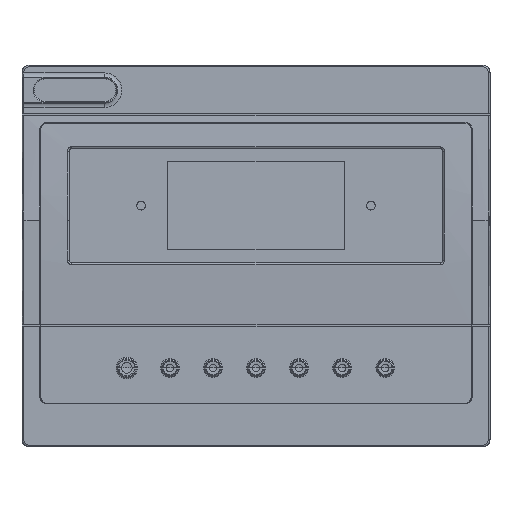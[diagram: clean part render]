
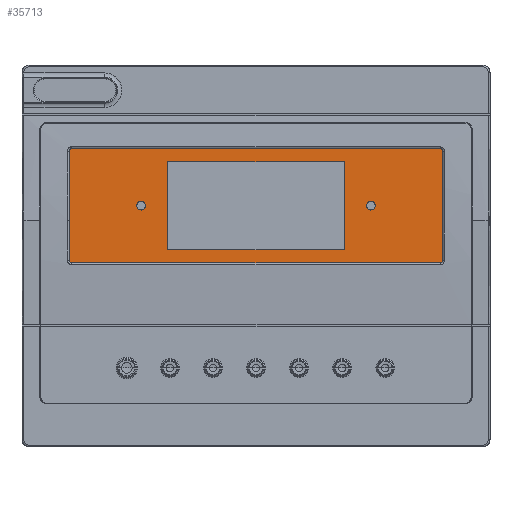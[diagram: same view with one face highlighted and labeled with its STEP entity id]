
A CAD part, top view. The second image highlights one B-rep face of the part: STEP entity #35713.
In plain terms, the highlighted planar face has unit normal (0, 0, 1).
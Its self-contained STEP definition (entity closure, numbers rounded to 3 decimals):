
#2018 = ORIENTED_EDGE ( 'NONE', *, *, #52061, .T. ) ;
#3302 = DIRECTION ( 'NONE',  ( 0., -1., 0. ) ) ;
#3781 = DIRECTION ( 'NONE',  ( 0., 0., 1. ) ) ;
#4356 = VERTEX_POINT ( 'NONE', #105289 ) ;
#4722 = VERTEX_POINT ( 'NONE', #91556 ) ;
#5924 = EDGE_CURVE ( 'NONE', #89878, #76999, #34259, .T. ) ;
#6278 = VERTEX_POINT ( 'NONE', #27375 ) ;
#7605 = DIRECTION ( 'NONE',  ( 0., 0., 1. ) ) ;
#10985 = DIRECTION ( 'NONE',  ( 0., -1., 0. ) ) ;
#11835 = LINE ( 'NONE', #137380, #97680 ) ;
#12155 = DIRECTION ( 'NONE',  ( 0., 1., 0. ) ) ;
#13151 = CARTESIAN_POINT ( 'NONE',  ( -41.5, 17.5, 7.5 ) ) ;
#15374 = ORIENTED_EDGE ( 'NONE', *, *, #15812, .T. ) ;
#15812 = EDGE_CURVE ( 'NONE', #29720, #133928, #28827, .T. ) ;
#18624 = VECTOR ( 'NONE', #40805, 1000. ) ;
#21100 = ORIENTED_EDGE ( 'NONE', *, *, #115583, .T. ) ;
#21170 = DIRECTION ( 'NONE',  ( 0., 0., 1. ) ) ;
#22137 = LINE ( 'NONE', #29481, #18624 ) ;
#23445 = CARTESIAN_POINT ( 'NONE',  ( -40., 17.5, 7.5 ) ) ;
#23997 = VERTEX_POINT ( 'NONE', #29060 ) ;
#24203 = DIRECTION ( 'NONE',  ( 0., 0., -1. ) ) ;
#24708 = CARTESIAN_POINT ( 'NONE',  ( -64.15, 36.5, 7.5 ) ) ;
#26003 = ORIENTED_EDGE ( 'NONE', *, *, #75775, .T. ) ;
#26130 = CARTESIAN_POINT ( 'NONE',  ( -30.69, 36.5, 7.5 ) ) ;
#27375 = CARTESIAN_POINT ( 'NONE',  ( 38.5, 17.5, 7.5 ) ) ;
#28827 = LINE ( 'NONE', #88868, #114635 ) ;
#29060 = CARTESIAN_POINT ( 'NONE',  ( -30.69, 32.89, 7.5 ) ) ;
#29481 = CARTESIAN_POINT ( 'NONE',  ( 64.15, 37.4, 7.5 ) ) ;
#29720 = VERTEX_POINT ( 'NONE', #89068 ) ;
#30289 = CARTESIAN_POINT ( 'NONE',  ( -64.15, -2.4, 7.5 ) ) ;
#31376 = AXIS2_PLACEMENT_3D ( 'NONE', #88237, #21170, #99470 ) ;
#31669 = AXIS2_PLACEMENT_3D ( 'NONE', #70964, #3781, #82135 ) ;
#34259 = CIRCLE ( 'NONE', #108921, 1.5 ) ;
#34457 = VERTEX_POINT ( 'NONE', #65762 ) ;
#34719 = DIRECTION ( 'NONE',  ( 1., 0., 0. ) ) ;
#35713 = ADVANCED_FACE ( 'NONE', ( #114804, #118313, #85103, #88610 ), #47275, .T. ) ;
#36137 = DIRECTION ( 'NONE',  ( 0., 0., -1. ) ) ;
#36779 = EDGE_LOOP ( 'NONE', ( #140468, #99304 ) ) ;
#37420 = ORIENTED_EDGE ( 'NONE', *, *, #60219, .T. ) ;
#37762 = LINE ( 'NONE', #114065, #93767 ) ;
#40805 = DIRECTION ( 'NONE',  ( -1., 0., 0. ) ) ;
#43071 = AXIS2_PLACEMENT_3D ( 'NONE', #24708, #103003, #69850 ) ;
#45853 = CARTESIAN_POINT ( 'NONE',  ( -64.15, 37.4, 7.5 ) ) ;
#46810 = ORIENTED_EDGE ( 'NONE', *, *, #141261, .T. ) ;
#47275 = PLANE ( 'NONE',  #43071 ) ;
#48213 = ORIENTED_EDGE ( 'NONE', *, *, #99893, .T. ) ;
#48397 = CARTESIAN_POINT ( 'NONE',  ( -65.05, -1.5, 7.5 ) ) ;
#48973 = CARTESIAN_POINT ( 'NONE',  ( 30.69, 2.11, 7.5 ) ) ;
#50394 = AXIS2_PLACEMENT_3D ( 'NONE', #91252, #24203, #102476 ) ;
#52061 = EDGE_CURVE ( 'NONE', #54663, #6278, #119962, .T. ) ;
#54663 = VERTEX_POINT ( 'NONE', #111423 ) ;
#55076 = VERTEX_POINT ( 'NONE', #131873 ) ;
#57904 = CARTESIAN_POINT ( 'NONE',  ( 64.15, -1.5, 7.5 ) ) ;
#58941 = CARTESIAN_POINT ( 'NONE',  ( -64.15, -2.4, 7.5 ) ) ;
#59622 = ORIENTED_EDGE ( 'NONE', *, *, #127293, .T. ) ;
#60219 = EDGE_CURVE ( 'NONE', #68291, #131589, #98182, .T. ) ;
#64183 = EDGE_CURVE ( 'NONE', #131857, #4356, #95124, .T. ) ;
#65257 = CARTESIAN_POINT ( 'NONE',  ( -40., 17.5, 7.5 ) ) ;
#65762 = CARTESIAN_POINT ( 'NONE',  ( 64.15, -2.4, 7.5 ) ) ;
#66795 = ORIENTED_EDGE ( 'NONE', *, *, #124419, .T. ) ;
#67053 = ORIENTED_EDGE ( 'NONE', *, *, #97082, .T. ) ;
#68279 = VERTEX_POINT ( 'NONE', #70494 ) ;
#68291 = VERTEX_POINT ( 'NONE', #48397 ) ;
#69236 = DIRECTION ( 'NONE',  ( 1., 0., 0. ) ) ;
#69850 = DIRECTION ( 'NONE',  ( 1., 0., 0. ) ) ;
#70487 = VECTOR ( 'NONE', #138155, 1000. ) ;
#70494 = CARTESIAN_POINT ( 'NONE',  ( 64.15, 37.4, 7.5 ) ) ;
#70570 = CIRCLE ( 'NONE', #31669, 0.9 ) ;
#70964 = CARTESIAN_POINT ( 'NONE',  ( 64.15, 36.5, 7.5 ) ) ;
#71476 = CIRCLE ( 'NONE', #50394, 1.5 ) ;
#74725 = CARTESIAN_POINT ( 'NONE',  ( -64.15, 36.5, 7.5 ) ) ;
#75775 = EDGE_CURVE ( 'NONE', #34457, #131857, #119874, .T. ) ;
#76518 = DIRECTION ( 'NONE',  ( 1., 0., 0. ) ) ;
#76600 = DIRECTION ( 'NONE',  ( 1., 0., 0. ) ) ;
#76740 = CIRCLE ( 'NONE', #94822, 0.9 ) ;
#76999 = VERTEX_POINT ( 'NONE', #103015 ) ;
#78113 = ORIENTED_EDGE ( 'NONE', *, *, #64183, .T. ) ;
#79254 = CARTESIAN_POINT ( 'NONE',  ( 65.05, -1.5, 7.5 ) ) ;
#79725 = LINE ( 'NONE', #30289, #83232 ) ;
#82135 = DIRECTION ( 'NONE',  ( 1., 0., 0. ) ) ;
#82892 = EDGE_CURVE ( 'NONE', #88775, #55076, #76740, .T. ) ;
#83014 = ORIENTED_EDGE ( 'NONE', *, *, #123599, .T. ) ;
#83232 = VECTOR ( 'NONE', #108599, 1000. ) ;
#84592 = EDGE_LOOP ( 'NONE', ( #88349, #83014, #37420, #123818, #26003, #78113, #59622, #66795 ) ) ;
#85103 = FACE_BOUND ( 'NONE', #36779, .T. ) ;
#85974 = DIRECTION ( 'NONE',  ( 1., 0., 0. ) ) ;
#86308 = CARTESIAN_POINT ( 'NONE',  ( 65.05, -1.5, 7.5 ) ) ;
#88237 = CARTESIAN_POINT ( 'NONE',  ( -64.15, -1.5, 7.5 ) ) ;
#88349 = ORIENTED_EDGE ( 'NONE', *, *, #82892, .T. ) ;
#88610 = FACE_BOUND ( 'NONE', #99399, .T. ) ;
#88775 = VERTEX_POINT ( 'NONE', #45853 ) ;
#88868 = CARTESIAN_POINT ( 'NONE',  ( 30.69, 36.5, 7.5 ) ) ;
#89068 = CARTESIAN_POINT ( 'NONE',  ( 30.69, 32.89, 7.5 ) ) ;
#89816 = EDGE_CURVE ( 'NONE', #76999, #89878, #92412, .T. ) ;
#89878 = VERTEX_POINT ( 'NONE', #13151 ) ;
#91113 = DIRECTION ( 'NONE',  ( -1., 0., 0. ) ) ;
#91252 = CARTESIAN_POINT ( 'NONE',  ( 40., 17.5, 7.5 ) ) ;
#91556 = CARTESIAN_POINT ( 'NONE',  ( -30.69, 2.11, 7.5 ) ) ;
#92412 = CIRCLE ( 'NONE', #95162, 1.5 ) ;
#92673 = LINE ( 'NONE', #132300, #145070 ) ;
#93767 = VECTOR ( 'NONE', #91113, 1000. ) ;
#94822 = AXIS2_PLACEMENT_3D ( 'NONE', #74725, #7605, #85974 ) ;
#95124 = LINE ( 'NONE', #79254, #124850 ) ;
#95162 = AXIS2_PLACEMENT_3D ( 'NONE', #23445, #101727, #34719 ) ;
#97082 = EDGE_CURVE ( 'NONE', #133928, #4722, #37762, .T. ) ;
#97680 = VECTOR ( 'NONE', #3302, 1000. ) ;
#98182 = CIRCLE ( 'NONE', #31376, 0.9 ) ;
#99304 = ORIENTED_EDGE ( 'NONE', *, *, #5924, .T. ) ;
#99399 = EDGE_LOOP ( 'NONE', ( #2018, #48213 ) ) ;
#99470 = DIRECTION ( 'NONE',  ( 1., 0., 0. ) ) ;
#99893 = EDGE_CURVE ( 'NONE', #6278, #54663, #71476, .T. ) ;
#101727 = DIRECTION ( 'NONE',  ( 0., 0., -1. ) ) ;
#102476 = DIRECTION ( 'NONE',  ( 1., 0., 0. ) ) ;
#103003 = DIRECTION ( 'NONE',  ( 0., 0., 1. ) ) ;
#103015 = CARTESIAN_POINT ( 'NONE',  ( -38.5, 17.5, 7.5 ) ) ;
#103134 = CARTESIAN_POINT ( 'NONE',  ( 40., 17.5, 7.5 ) ) ;
#103654 = LINE ( 'NONE', #26130, #70487 ) ;
#105289 = CARTESIAN_POINT ( 'NONE',  ( 65.05, 36.5, 7.5 ) ) ;
#108599 = DIRECTION ( 'NONE',  ( 1., 0., 0. ) ) ;
#108921 = AXIS2_PLACEMENT_3D ( 'NONE', #65257, #143383, #76518 ) ;
#110889 = AXIS2_PLACEMENT_3D ( 'NONE', #57904, #136138, #69236 ) ;
#111423 = CARTESIAN_POINT ( 'NONE',  ( 41.5, 17.5, 7.5 ) ) ;
#114065 = CARTESIAN_POINT ( 'NONE',  ( -64.15, 2.11, 7.5 ) ) ;
#114397 = DIRECTION ( 'NONE',  ( 1., 0., 0. ) ) ;
#114635 = VECTOR ( 'NONE', #10985, 1000. ) ;
#114804 = FACE_BOUND ( 'NONE', #141653, .T. ) ;
#115583 = EDGE_CURVE ( 'NONE', #23997, #29720, #92673, .T. ) ;
#118313 = FACE_OUTER_BOUND ( 'NONE', #84592, .T. ) ;
#119874 = CIRCLE ( 'NONE', #110889, 0.9 ) ;
#119962 = CIRCLE ( 'NONE', #135829, 1.5 ) ;
#123599 = EDGE_CURVE ( 'NONE', #55076, #68291, #11835, .T. ) ;
#123818 = ORIENTED_EDGE ( 'NONE', *, *, #125046, .T. ) ;
#124419 = EDGE_CURVE ( 'NONE', #68279, #88775, #22137, .T. ) ;
#124850 = VECTOR ( 'NONE', #12155, 1000. ) ;
#125046 = EDGE_CURVE ( 'NONE', #131589, #34457, #79725, .T. ) ;
#127293 = EDGE_CURVE ( 'NONE', #4356, #68279, #70570, .T. ) ;
#131589 = VERTEX_POINT ( 'NONE', #58941 ) ;
#131857 = VERTEX_POINT ( 'NONE', #86308 ) ;
#131873 = CARTESIAN_POINT ( 'NONE',  ( -65.05, 36.5, 7.5 ) ) ;
#132300 = CARTESIAN_POINT ( 'NONE',  ( -64.15, 32.89, 7.5 ) ) ;
#133928 = VERTEX_POINT ( 'NONE', #48973 ) ;
#135829 = AXIS2_PLACEMENT_3D ( 'NONE', #103134, #36137, #114397 ) ;
#136138 = DIRECTION ( 'NONE',  ( 0., 0., 1. ) ) ;
#137380 = CARTESIAN_POINT ( 'NONE',  ( -65.05, 36.5, 7.5 ) ) ;
#138155 = DIRECTION ( 'NONE',  ( 0., 1., 0. ) ) ;
#140468 = ORIENTED_EDGE ( 'NONE', *, *, #89816, .T. ) ;
#141261 = EDGE_CURVE ( 'NONE', #4722, #23997, #103654, .T. ) ;
#141653 = EDGE_LOOP ( 'NONE', ( #15374, #67053, #46810, #21100 ) ) ;
#143383 = DIRECTION ( 'NONE',  ( 0., 0., -1. ) ) ;
#145070 = VECTOR ( 'NONE', #76600, 1000. ) ;
